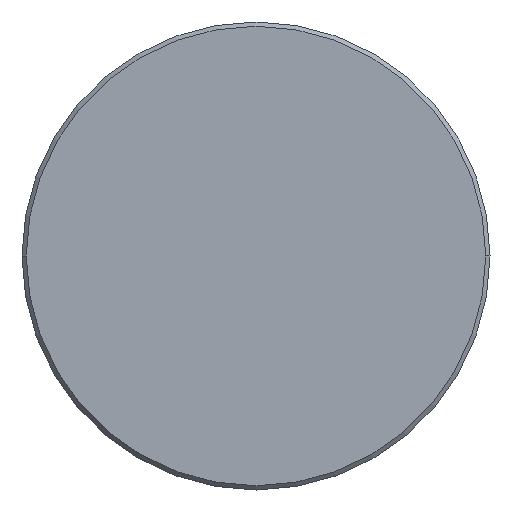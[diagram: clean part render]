
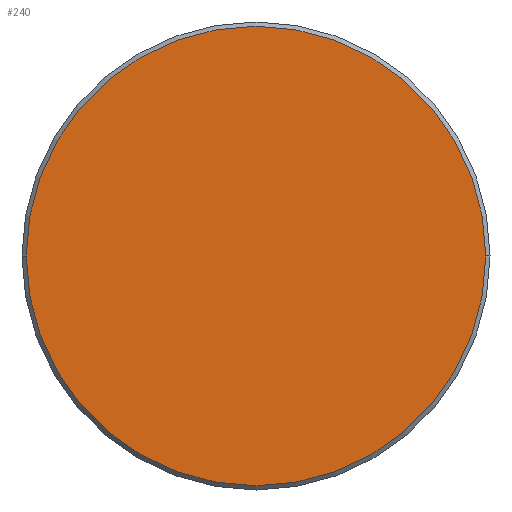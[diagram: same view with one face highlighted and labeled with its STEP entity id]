
A CAD part, left-side view. The second image highlights one B-rep face of the part: STEP entity #240.
In plain terms, the highlighted planar face has unit normal (-1, 0, 0).
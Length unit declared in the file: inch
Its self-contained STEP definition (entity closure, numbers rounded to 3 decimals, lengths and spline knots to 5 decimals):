
#43 = DIRECTION ( 'NONE',  ( 0., -1., 0. ) ) ;
#62 = ORIENTED_EDGE ( 'NONE', *, *, #222, .T. ) ;
#66 = CIRCLE ( 'NONE', #296, 0.21475 ) ;
#91 = CIRCLE ( 'NONE', #343, 0.21475 ) ;
#98 = VERTEX_POINT ( 'NONE', #344 ) ;
#99 = CARTESIAN_POINT ( 'NONE',  ( 0., 0., 0. ) ) ;
#109 = AXIS2_PLACEMENT_3D ( 'NONE', #305, #186, #121 ) ;
#121 = DIRECTION ( 'NONE',  ( 0., -1., 0. ) ) ;
#153 = VERTEX_POINT ( 'NONE', #253 ) ;
#157 = EDGE_CURVE ( 'NONE', #98, #153, #66, .T. ) ;
#164 = DIRECTION ( 'NONE',  ( 0., -1., 0. ) ) ;
#183 = PLANE ( 'NONE',  #109 ) ;
#186 = DIRECTION ( 'NONE',  ( -1., 0., 0. ) ) ;
#188 = CARTESIAN_POINT ( 'NONE',  ( 0., 0., 0. ) ) ;
#194 = ORIENTED_EDGE ( 'NONE', *, *, #157, .T. ) ;
#222 = EDGE_CURVE ( 'NONE', #153, #98, #91, .T. ) ;
#224 = EDGE_LOOP ( 'NONE', ( #194, #62 ) ) ;
#240 = ADVANCED_FACE ( 'NONE', ( #303 ), #183, .T. ) ;
#253 = CARTESIAN_POINT ( 'NONE',  ( 0., -0.21475, 0. ) ) ;
#296 = AXIS2_PLACEMENT_3D ( 'NONE', #99, #347, #164 ) ;
#303 = FACE_OUTER_BOUND ( 'NONE', #224, .T. ) ;
#305 = CARTESIAN_POINT ( 'NONE',  ( 0., 0., 0. ) ) ;
#307 = DIRECTION ( 'NONE',  ( -1., 0., 0. ) ) ;
#343 = AXIS2_PLACEMENT_3D ( 'NONE', #188, #307, #43 ) ;
#344 = CARTESIAN_POINT ( 'NONE',  ( 0., 0.21475, 0. ) ) ;
#347 = DIRECTION ( 'NONE',  ( -1., 0., 0. ) ) ;
